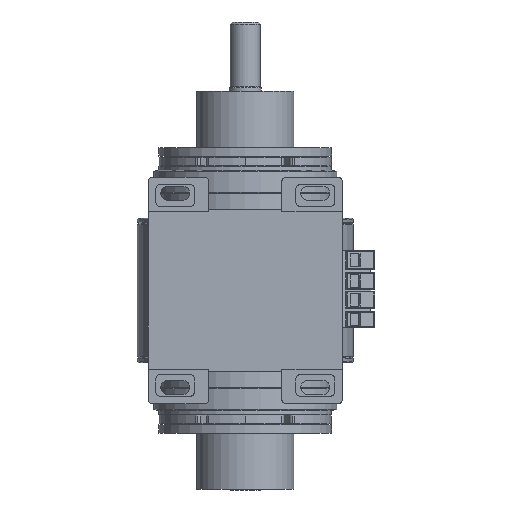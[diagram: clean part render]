
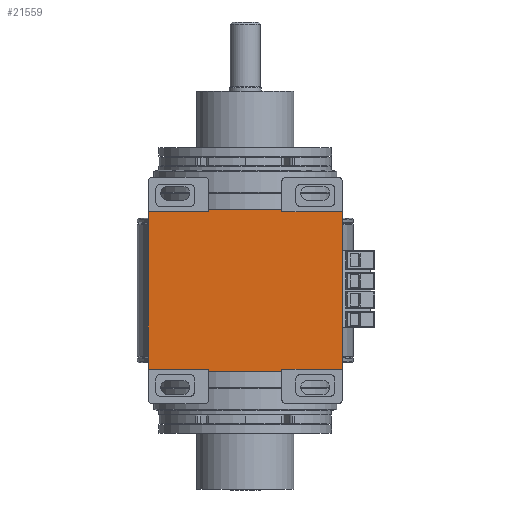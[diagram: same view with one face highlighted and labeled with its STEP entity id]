
A CAD part, front view. The second image highlights one B-rep face of the part: STEP entity #21559.
In plain terms, the highlighted planar face has unit normal (0, -1, 0).
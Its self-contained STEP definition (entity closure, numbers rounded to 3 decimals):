
#50 = EDGE_CURVE ( 'NONE', #26496, #11764, #6965, .T. ) ;
#630 = CARTESIAN_POINT ( 'NONE',  ( 45., -65., -36.5 ) ) ;
#850 = VECTOR ( 'NONE', #20155, 1000. ) ;
#1131 = CARTESIAN_POINT ( 'NONE',  ( 17., -65., -37.5 ) ) ;
#1697 = EDGE_CURVE ( 'NONE', #32863, #3450, #10598, .T. ) ;
#1866 = CARTESIAN_POINT ( 'NONE',  ( 45., -65., 36.5 ) ) ;
#1928 = CARTESIAN_POINT ( 'NONE',  ( 45., -65., 37.5 ) ) ;
#2634 = VECTOR ( 'NONE', #22891, 1000. ) ;
#2736 = VECTOR ( 'NONE', #26616, 1000. ) ;
#2944 = AXIS2_PLACEMENT_3D ( 'NONE', #25745, #33743, #20516 ) ;
#3007 = ORIENTED_EDGE ( 'NONE', *, *, #22269, .T. ) ;
#3450 = VERTEX_POINT ( 'NONE', #33803 ) ;
#3648 = DIRECTION ( 'NONE',  ( 0., 0., -1. ) ) ;
#3967 = DIRECTION ( 'NONE',  ( -1., 0., 0. ) ) ;
#4977 = LINE ( 'NONE', #23047, #850 ) ;
#5751 = ORIENTED_EDGE ( 'NONE', *, *, #1697, .T. ) ;
#6725 = LINE ( 'NONE', #12480, #2634 ) ;
#6965 = LINE ( 'NONE', #11948, #16427 ) ;
#7188 = CARTESIAN_POINT ( 'NONE',  ( -17., -65., -36.5 ) ) ;
#7648 = CARTESIAN_POINT ( 'NONE',  ( 17., -65., 36.5 ) ) ;
#8063 = CARTESIAN_POINT ( 'NONE',  ( 45., -65., -37.5 ) ) ;
#9089 = VECTOR ( 'NONE', #3967, 1000. ) ;
#9457 = LINE ( 'NONE', #16919, #29781 ) ;
#9822 = LINE ( 'NONE', #31209, #32644 ) ;
#10223 = VERTEX_POINT ( 'NONE', #26257 ) ;
#10356 = LINE ( 'NONE', #24697, #17791 ) ;
#10371 = ORIENTED_EDGE ( 'NONE', *, *, #21596, .F. ) ;
#10384 = ORIENTED_EDGE ( 'NONE', *, *, #50, .T. ) ;
#10598 = LINE ( 'NONE', #33375, #32165 ) ;
#10656 = ORIENTED_EDGE ( 'NONE', *, *, #16197, .T. ) ;
#11731 = DIRECTION ( 'NONE',  ( 0., 0., -1. ) ) ;
#11764 = VERTEX_POINT ( 'NONE', #22548 ) ;
#11948 = CARTESIAN_POINT ( 'NONE',  ( 17., -65., 37.5 ) ) ;
#11976 = CARTESIAN_POINT ( 'NONE',  ( 17., -65., 37.5 ) ) ;
#12480 = CARTESIAN_POINT ( 'NONE',  ( 17., -65., 37.5 ) ) ;
#12512 = LINE ( 'NONE', #1928, #29103 ) ;
#12781 = EDGE_CURVE ( 'NONE', #28268, #25137, #4977, .T. ) ;
#13282 = EDGE_CURVE ( 'NONE', #28708, #13811, #18151, .T. ) ;
#13811 = VERTEX_POINT ( 'NONE', #7648 ) ;
#14743 = EDGE_CURVE ( 'NONE', #15111, #28268, #9457, .T. ) ;
#14800 = DIRECTION ( 'NONE',  ( -1., 0., 0. ) ) ;
#14916 = EDGE_CURVE ( 'NONE', #11764, #26938, #9822, .T. ) ;
#15111 = VERTEX_POINT ( 'NONE', #15845 ) ;
#15845 = CARTESIAN_POINT ( 'NONE',  ( -45., -65., -36.5 ) ) ;
#16197 = EDGE_CURVE ( 'NONE', #25137, #26496, #30047, .T. ) ;
#16384 = EDGE_CURVE ( 'NONE', #28708, #26938, #20913, .T. ) ;
#16427 = VECTOR ( 'NONE', #23057, 1000. ) ;
#16468 = DIRECTION ( 'NONE',  ( 0., 0., -1. ) ) ;
#16919 = CARTESIAN_POINT ( 'NONE',  ( 45., -65., -36.5 ) ) ;
#17791 = VECTOR ( 'NONE', #3648, 1000. ) ;
#17815 = PLANE ( 'NONE',  #2944 ) ;
#18151 = LINE ( 'NONE', #33243, #9089 ) ;
#18694 = ORIENTED_EDGE ( 'NONE', *, *, #16384, .F. ) ;
#19719 = DIRECTION ( 'NONE',  ( 1., 0., 0. ) ) ;
#20155 = DIRECTION ( 'NONE',  ( 0., 0., -1. ) ) ;
#20516 = DIRECTION ( 'NONE',  ( -1., 0., 0. ) ) ;
#20913 = LINE ( 'NONE', #22394, #22133 ) ;
#21559 = ADVANCED_FACE ( 'NONE', ( #23704 ), #17815, .F. ) ;
#21581 = ORIENTED_EDGE ( 'NONE', *, *, #13282, .T. ) ;
#21596 = EDGE_CURVE ( 'NONE', #10223, #31311, #12512, .T. ) ;
#22133 = VECTOR ( 'NONE', #11731, 1000. ) ;
#22173 = CARTESIAN_POINT ( 'NONE',  ( -17., -65., 36.5 ) ) ;
#22269 = EDGE_CURVE ( 'NONE', #13811, #31311, #6725, .T. ) ;
#22394 = CARTESIAN_POINT ( 'NONE',  ( 45., -65., 37.5 ) ) ;
#22548 = CARTESIAN_POINT ( 'NONE',  ( 17., -65., -36.5 ) ) ;
#22891 = DIRECTION ( 'NONE',  ( 0., 0., 1. ) ) ;
#23047 = CARTESIAN_POINT ( 'NONE',  ( -17., -65., 37.5 ) ) ;
#23057 = DIRECTION ( 'NONE',  ( 0., 0., 1. ) ) ;
#23171 = DIRECTION ( 'NONE',  ( 1., 0., 0. ) ) ;
#23189 = EDGE_CURVE ( 'NONE', #3450, #15111, #10356, .T. ) ;
#23651 = ORIENTED_EDGE ( 'NONE', *, *, #23189, .T. ) ;
#23704 = FACE_OUTER_BOUND ( 'NONE', #26088, .T. ) ;
#24697 = CARTESIAN_POINT ( 'NONE',  ( -45., -65., 37.5 ) ) ;
#25137 = VERTEX_POINT ( 'NONE', #28974 ) ;
#25745 = CARTESIAN_POINT ( 'NONE',  ( 45., -65., 37.5 ) ) ;
#26088 = EDGE_LOOP ( 'NONE', ( #10656, #10384, #28152, #18694, #21581, #3007, #10371, #26913, #5751, #23651, #29105, #32453 ) ) ;
#26257 = CARTESIAN_POINT ( 'NONE',  ( -17., -65., 37.5 ) ) ;
#26496 = VERTEX_POINT ( 'NONE', #1131 ) ;
#26616 = DIRECTION ( 'NONE',  ( 1., 0., 0. ) ) ;
#26913 = ORIENTED_EDGE ( 'NONE', *, *, #32847, .T. ) ;
#26938 = VERTEX_POINT ( 'NONE', #630 ) ;
#27527 = VECTOR ( 'NONE', #16468, 1000. ) ;
#28152 = ORIENTED_EDGE ( 'NONE', *, *, #14916, .T. ) ;
#28268 = VERTEX_POINT ( 'NONE', #7188 ) ;
#28708 = VERTEX_POINT ( 'NONE', #1866 ) ;
#28974 = CARTESIAN_POINT ( 'NONE',  ( -17., -65., -37.5 ) ) ;
#29103 = VECTOR ( 'NONE', #23171, 1000. ) ;
#29105 = ORIENTED_EDGE ( 'NONE', *, *, #14743, .T. ) ;
#29781 = VECTOR ( 'NONE', #19719, 1000. ) ;
#30047 = LINE ( 'NONE', #8063, #2736 ) ;
#31209 = CARTESIAN_POINT ( 'NONE',  ( 45., -65., -36.5 ) ) ;
#31311 = VERTEX_POINT ( 'NONE', #11976 ) ;
#31441 = DIRECTION ( 'NONE',  ( 1., 0., 0. ) ) ;
#32088 = LINE ( 'NONE', #32410, #27527 ) ;
#32165 = VECTOR ( 'NONE', #14800, 1000. ) ;
#32410 = CARTESIAN_POINT ( 'NONE',  ( -17., -65., 37.5 ) ) ;
#32453 = ORIENTED_EDGE ( 'NONE', *, *, #12781, .T. ) ;
#32644 = VECTOR ( 'NONE', #31441, 1000. ) ;
#32847 = EDGE_CURVE ( 'NONE', #10223, #32863, #32088, .T. ) ;
#32863 = VERTEX_POINT ( 'NONE', #22173 ) ;
#33243 = CARTESIAN_POINT ( 'NONE',  ( 45., -65., 36.5 ) ) ;
#33375 = CARTESIAN_POINT ( 'NONE',  ( 45., -65., 36.5 ) ) ;
#33743 = DIRECTION ( 'NONE',  ( 0., 1., 0. ) ) ;
#33803 = CARTESIAN_POINT ( 'NONE',  ( -45., -65., 36.5 ) ) ;
